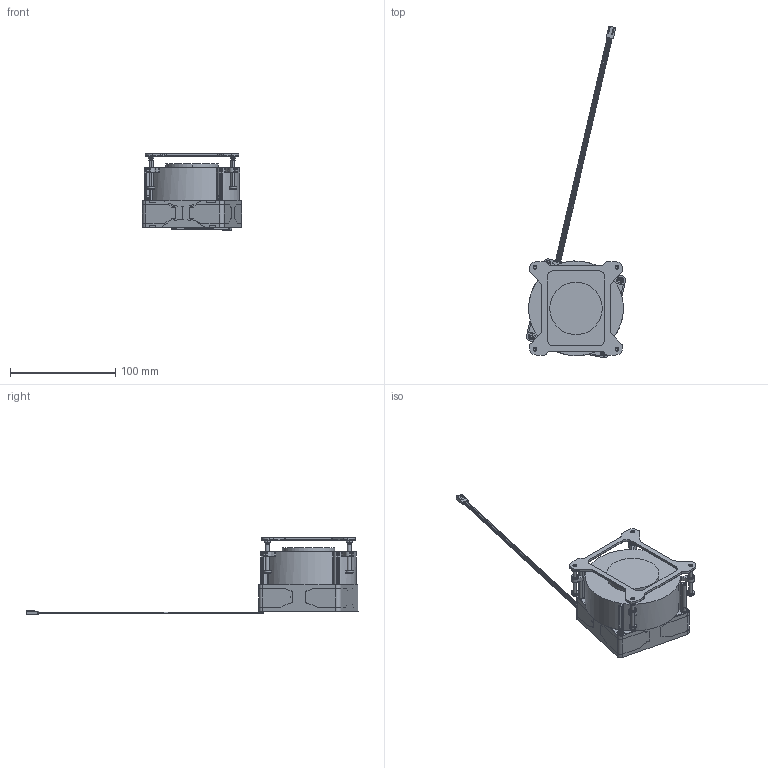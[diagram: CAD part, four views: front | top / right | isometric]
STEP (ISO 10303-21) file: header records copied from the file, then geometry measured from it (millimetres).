
FILE_DESCRIPTION((''),'2;1');
FILE_NAME('RGD3229-60E-002_ME_ASM','2022-10-11T',('User'),(''),'PRO/ENGINEER BY PARAMETRIC TECHNOLOGY CORPORATION, 2017170','PRO/ENGINEER BY PARAMETRIC TECHNOLOGY CORPORATION, 2017170','');
FILE_SCHEMA(('CONFIG_CONTROL_DESIGN'));
Length unit declared in the file: millimetre
Products named in the file (24): D90X35A_C_1; 33MM_CPB_1; 78X78X35_D90_CPB_1_ASM_1_ASM; 78X78X35_D90_CPB_ASM_1_ASM; DEAKTOP_SCREW_D7_30_8L_1; E-RING_1; DESKTOP_SCREW_ASSY_ASM_1_ASM; R8025_20191212_1; FAN_LEAF_1; MANIFOLD_SOLID_BREP_47147; MANIFOLD_SOLID_BREP_47266; MANIFOLD_SOLID_BREP_51725; 4PIN_1_ASM; R128025BUAF325AR_ASM_1_ASM; LABEL_R30_1_1; FAN_SCREW_T3X32MM_1; R128025BUAF325AR_25H_ASSY_ASM_1_ASM; 850-BP-1700_1; ADHESIVE_1; MYLAR_1; 850-BP1700_1_ASM_1_ASM; 850-BP1700_ASM_1_ASM; RGD3229-60E-002_ASM_1_ASM; RGD3229-60E-002_ME_ASM
Assembly tree (29 placements, depth 6):
  RGD3229-60E-002_ME_ASM
    RGD3229-60E-002_ASM_1_ASM
      78X78X35_D90_CPB_ASM_1_ASM
        78X78X35_D90_CPB_1_ASM_1_ASM
          D90X35A_C_1
          33MM_CPB_1
      DESKTOP_SCREW_ASSY_ASM_1_ASM  x4
        DEAKTOP_SCREW_D7_30_8L_1
        E-RING_1
      R128025BUAF325AR_25H_ASSY_ASM_1_ASM
        R128025BUAF325AR_ASM_1_ASM
          R8025_20191212_1
          FAN_LEAF_1
          4PIN_1_ASM
            MANIFOLD_SOLID_BREP_47147
            MANIFOLD_SOLID_BREP_47266
            MANIFOLD_SOLID_BREP_51725
        LABEL_R30_1_1
        FAN_SCREW_T3X32MM_1  x4
      850-BP1700_ASM_1_ASM
        850-BP1700_1_ASM_1_ASM
          850-BP-1700_1
          ADHESIVE_1
          MYLAR_1
Bounding box: 94.35 x 316.08 x 73.1 mm (x, y, z)
Volume: 401576.9 mm3; surface area: 114958.3 mm2
Topology: 22 solids, 26 shells, 2684 faces, 7612 edges, 5046 vertices
Faces by surface type: plane 1515, cylinder 841, bspline 97, extrusion 97, cone 61, torus 53, sphere 20
Entity records: 87597 total; most frequent: CARTESIAN_POINT 40623, ORIENTED_EDGE 10240, DIRECTION 8951, EDGE_CURVE 5126, VERTEX_POINT 3421, VECTOR 3103, LINE 3006, AXIS2_PLACEMENT_3D 2924
